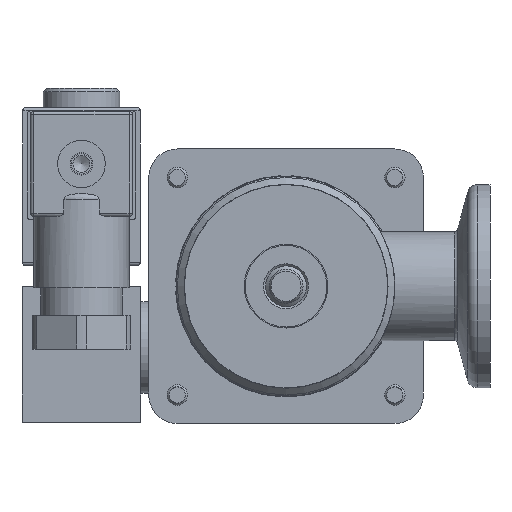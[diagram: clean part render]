
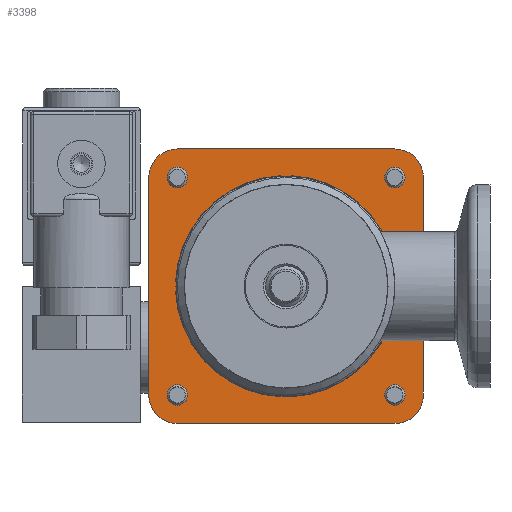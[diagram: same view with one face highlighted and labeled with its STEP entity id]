
A CAD part, front view. The second image highlights one B-rep face of the part: STEP entity #3398.
In plain terms, the highlighted planar face has unit normal (0, -1, 0) as drawn and (0, 1, 0) by its records, which use the part's own axes.
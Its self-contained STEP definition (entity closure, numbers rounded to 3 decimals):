
#2382=CIRCLE('',#12213,16.1);
#2384=CIRCLE('',#12218,16.1);
#2386=CIRCLE('',#12223,16.1);
#2388=CIRCLE('',#12228,16.1);
#2390=CIRCLE('',#12232,16.275);
#2392=CIRCLE('',#12234,16.275);
#2394=CIRCLE('',#12236,16.275);
#2396=CIRCLE('',#12238,16.275);
#2397=CIRCLE('',#12241,4.2);
#2398=CIRCLE('',#12244,4.2);
#2399=CIRCLE('',#12247,4.2);
#2400=CIRCLE('',#12250,4.2);
#2401=CIRCLE('',#12253,1.5);
#2402=CIRCLE('',#12254,1.5);
#2403=CIRCLE('',#12255,1.5);
#2404=CIRCLE('',#12256,1.5);
#2856=FACE_BOUND('',#4839,.T.);
#2857=FACE_BOUND('',#4840,.T.);
#2858=FACE_BOUND('',#4841,.T.);
#2859=FACE_BOUND('',#4842,.T.);
#2860=FACE_BOUND('',#4843,.T.);
#2861=FACE_BOUND('',#4844,.T.);
#3398=ADVANCED_FACE('',(#2856,#2857,#2858,#2859,#2860,#2861),#3913,.T.);
#3913=PLANE('',#12257);
#4839=EDGE_LOOP('',(#6293));
#4840=EDGE_LOOP('',(#6294));
#4841=EDGE_LOOP('',(#6295));
#4842=EDGE_LOOP('',(#6296));
#4843=EDGE_LOOP('',(#6297,#6298,#6299,#6300,#6301,#6302,#6303,#6304));
#4844=EDGE_LOOP('',(#6305,#6306,#6307,#6308,#6309,#6310,#6311,#6312,#6313,
#6314,#6315,#6316,#6317,#6318,#6319,#6320));
#6293=ORIENTED_EDGE('',*,*,#9436,.F.);
#6294=ORIENTED_EDGE('',*,*,#9437,.F.);
#6295=ORIENTED_EDGE('',*,*,#9438,.F.);
#6296=ORIENTED_EDGE('',*,*,#9439,.F.);
#6297=ORIENTED_EDGE('',*,*,#9419,.T.);
#6298=ORIENTED_EDGE('',*,*,#9422,.T.);
#6299=ORIENTED_EDGE('',*,*,#9424,.T.);
#6300=ORIENTED_EDGE('',*,*,#9426,.T.);
#6301=ORIENTED_EDGE('',*,*,#9428,.T.);
#6302=ORIENTED_EDGE('',*,*,#9430,.T.);
#6303=ORIENTED_EDGE('',*,*,#9432,.T.);
#6304=ORIENTED_EDGE('',*,*,#9433,.T.);
#6305=ORIENTED_EDGE('',*,*,#9375,.T.);
#6306=ORIENTED_EDGE('',*,*,#9378,.T.);
#6307=ORIENTED_EDGE('',*,*,#9417,.T.);
#6308=ORIENTED_EDGE('',*,*,#9382,.T.);
#6309=ORIENTED_EDGE('',*,*,#9385,.T.);
#6310=ORIENTED_EDGE('',*,*,#9388,.T.);
#6311=ORIENTED_EDGE('',*,*,#9415,.T.);
#6312=ORIENTED_EDGE('',*,*,#9392,.T.);
#6313=ORIENTED_EDGE('',*,*,#9395,.T.);
#6314=ORIENTED_EDGE('',*,*,#9398,.T.);
#6315=ORIENTED_EDGE('',*,*,#9413,.T.);
#6316=ORIENTED_EDGE('',*,*,#9402,.T.);
#6317=ORIENTED_EDGE('',*,*,#9405,.T.);
#6318=ORIENTED_EDGE('',*,*,#9408,.T.);
#6319=ORIENTED_EDGE('',*,*,#9411,.T.);
#6320=ORIENTED_EDGE('',*,*,#9435,.T.);
#8314=VERTEX_POINT('',#16907);
#8317=VERTEX_POINT('',#16912);
#8319=VERTEX_POINT('',#16918);
#8320=VERTEX_POINT('',#16922);
#8323=VERTEX_POINT('',#16927);
#8325=VERTEX_POINT('',#16933);
#8327=VERTEX_POINT('',#16939);
#8328=VERTEX_POINT('',#16943);
#8331=VERTEX_POINT('',#16948);
#8333=VERTEX_POINT('',#16954);
#8335=VERTEX_POINT('',#16960);
#8336=VERTEX_POINT('',#16964);
#8339=VERTEX_POINT('',#16969);
#8341=VERTEX_POINT('',#16975);
#8343=VERTEX_POINT('',#16981);
#8345=VERTEX_POINT('',#16987);
#8346=VERTEX_POINT('',#16997);
#8347=VERTEX_POINT('',#16999);
#8348=VERTEX_POINT('',#17003);
#8349=VERTEX_POINT('',#17007);
#8350=VERTEX_POINT('',#17011);
#8351=VERTEX_POINT('',#17015);
#8352=VERTEX_POINT('',#17019);
#8353=VERTEX_POINT('',#17023);
#8354=VERTEX_POINT('',#17032);
#8355=VERTEX_POINT('',#17034);
#8356=VERTEX_POINT('',#17036);
#8357=VERTEX_POINT('',#17038);
#9375=EDGE_CURVE('',#8314,#8317,#2382,.T.);
#9378=EDGE_CURVE('',#8317,#8319,#10541,.T.);
#9382=EDGE_CURVE('',#8320,#8323,#10545,.T.);
#9385=EDGE_CURVE('',#8323,#8325,#2384,.T.);
#9388=EDGE_CURVE('',#8325,#8327,#10549,.T.);
#9392=EDGE_CURVE('',#8328,#8331,#10553,.T.);
#9395=EDGE_CURVE('',#8331,#8333,#2386,.T.);
#9398=EDGE_CURVE('',#8333,#8335,#10557,.T.);
#9402=EDGE_CURVE('',#8336,#8339,#10561,.T.);
#9405=EDGE_CURVE('',#8339,#8341,#2388,.T.);
#9408=EDGE_CURVE('',#8341,#8343,#10565,.T.);
#9411=EDGE_CURVE('',#8343,#8345,#2390,.T.);
#9413=EDGE_CURVE('',#8335,#8336,#2392,.T.);
#9415=EDGE_CURVE('',#8327,#8328,#2394,.T.);
#9417=EDGE_CURVE('',#8319,#8320,#2396,.T.);
#9419=EDGE_CURVE('',#8347,#8346,#10568,.T.);
#9422=EDGE_CURVE('',#8346,#8348,#2397,.T.);
#9424=EDGE_CURVE('',#8348,#8349,#10572,.T.);
#9426=EDGE_CURVE('',#8349,#8350,#2398,.T.);
#9428=EDGE_CURVE('',#8350,#8351,#10575,.T.);
#9430=EDGE_CURVE('',#8351,#8352,#2399,.T.);
#9432=EDGE_CURVE('',#8352,#8353,#10578,.T.);
#9433=EDGE_CURVE('',#8353,#8347,#2400,.T.);
#9435=EDGE_CURVE('',#8345,#8314,#10580,.T.);
#9436=EDGE_CURVE('',#8354,#8354,#2401,.T.);
#9437=EDGE_CURVE('',#8355,#8355,#2402,.T.);
#9438=EDGE_CURVE('',#8356,#8356,#2403,.T.);
#9439=EDGE_CURVE('',#8357,#8357,#2404,.T.);
#10541=LINE('',#16919,#11343);
#10545=LINE('',#16928,#11347);
#10549=LINE('',#16940,#11351);
#10553=LINE('',#16949,#11355);
#10557=LINE('',#16961,#11359);
#10561=LINE('',#16970,#11363);
#10565=LINE('',#16982,#11367);
#10568=LINE('',#16998,#11370);
#10572=LINE('',#17008,#11374);
#10575=LINE('',#17016,#11377);
#10578=LINE('',#17024,#11380);
#10580=LINE('',#17029,#11382);
#11343=VECTOR('',#13846,1.);
#11347=VECTOR('',#13852,1.);
#11351=VECTOR('',#13864,1.);
#11355=VECTOR('',#13870,1.);
#11359=VECTOR('',#13882,1.);
#11363=VECTOR('',#13888,1.);
#11367=VECTOR('',#13900,1.);
#11370=VECTOR('',#13923,1.);
#11374=VECTOR('',#13933,1.);
#11377=VECTOR('',#13942,1.);
#11380=VECTOR('',#13951,1.);
#11382=VECTOR('',#13959,1.);
#12213=AXIS2_PLACEMENT_3D('',#16913,#13840,#13841);
#12218=AXIS2_PLACEMENT_3D('',#16934,#13858,#13859);
#12223=AXIS2_PLACEMENT_3D('',#16955,#13876,#13877);
#12228=AXIS2_PLACEMENT_3D('',#16976,#13894,#13895);
#12232=AXIS2_PLACEMENT_3D('',#16988,#13906,#13907);
#12234=AXIS2_PLACEMENT_3D('',#16990,#13910,#13911);
#12236=AXIS2_PLACEMENT_3D('',#16992,#13914,#13915);
#12238=AXIS2_PLACEMENT_3D('',#16994,#13918,#13919);
#12241=AXIS2_PLACEMENT_3D('',#17004,#13928,#13929);
#12244=AXIS2_PLACEMENT_3D('',#17012,#13937,#13938);
#12247=AXIS2_PLACEMENT_3D('',#17020,#13946,#13947);
#12250=AXIS2_PLACEMENT_3D('',#17026,#13954,#13955);
#12253=AXIS2_PLACEMENT_3D('',#17031,#13962,#13963);
#12254=AXIS2_PLACEMENT_3D('',#17033,#13964,#13965);
#12255=AXIS2_PLACEMENT_3D('',#17035,#13966,#13967);
#12256=AXIS2_PLACEMENT_3D('',#17037,#13968,#13969);
#12257=AXIS2_PLACEMENT_3D('',#17039,#13970,#13971);
#13840=DIRECTION('',(0.,-1.,0.));
#13841=DIRECTION('',(0.,0.,1.));
#13846=DIRECTION('',(0.,0.,1.));
#13852=DIRECTION('',(1.,0.,0.));
#13858=DIRECTION('',(0.,-1.,0.));
#13859=DIRECTION('',(0.,0.,1.));
#13864=DIRECTION('',(-1.,0.,0.));
#13870=DIRECTION('',(0.,0.,1.));
#13876=DIRECTION('',(0.,-1.,0.));
#13877=DIRECTION('',(0.,0.,1.));
#13882=DIRECTION('',(0.,0.,-1.));
#13888=DIRECTION('',(-1.,0.,0.));
#13894=DIRECTION('',(0.,-1.,0.));
#13895=DIRECTION('',(0.,0.,1.));
#13900=DIRECTION('',(1.,0.,0.));
#13906=DIRECTION('',(0.,-1.,0.));
#13907=DIRECTION('',(0.,0.,1.));
#13910=DIRECTION('',(0.,-1.,0.));
#13911=DIRECTION('',(0.,0.,1.));
#13914=DIRECTION('',(0.,-1.,0.));
#13915=DIRECTION('',(0.,0.,1.));
#13918=DIRECTION('',(0.,-1.,0.));
#13919=DIRECTION('',(0.,0.,1.));
#13923=DIRECTION('',(0.,0.,-1.));
#13928=DIRECTION('',(0.,1.,0.));
#13929=DIRECTION('',(1.,0.,0.));
#13933=DIRECTION('',(-1.,0.,0.));
#13937=DIRECTION('',(0.,1.,0.));
#13938=DIRECTION('',(0.,0.,-1.));
#13942=DIRECTION('',(0.,0.,1.));
#13946=DIRECTION('',(0.,1.,0.));
#13947=DIRECTION('',(-1.,0.,0.));
#13951=DIRECTION('',(1.,0.,0.));
#13954=DIRECTION('',(0.,1.,0.));
#13955=DIRECTION('',(0.,0.,1.));
#13959=DIRECTION('',(0.,0.,-1.));
#13962=DIRECTION('',(0.,1.,0.));
#13963=DIRECTION('',(-1.,0.,0.));
#13964=DIRECTION('',(0.,1.,0.));
#13965=DIRECTION('',(-1.,0.,0.));
#13966=DIRECTION('',(0.,1.,0.));
#13967=DIRECTION('',(-1.,0.,0.));
#13968=DIRECTION('',(0.,1.,0.));
#13969=DIRECTION('',(-1.,0.,0.));
#13970=DIRECTION('',(0.,1.,0.));
#13971=DIRECTION('',(0.,0.,1.));
#16907=CARTESIAN_POINT('',(0.75,6.,16.083));
#16912=CARTESIAN_POINT('',(-0.75,6.,16.083));
#16913=CARTESIAN_POINT('',(0.,6.,0.));
#16918=CARTESIAN_POINT('',(-0.75,6.,16.258));
#16919=CARTESIAN_POINT('',(-0.75,6.,16.083));
#16922=CARTESIAN_POINT('',(-16.258,6.,0.75));
#16927=CARTESIAN_POINT('',(-16.083,6.,0.75));
#16928=CARTESIAN_POINT('',(-16.258,6.,0.75));
#16933=CARTESIAN_POINT('',(-16.083,6.,-0.75));
#16934=CARTESIAN_POINT('',(0.,6.,0.));
#16939=CARTESIAN_POINT('',(-16.258,6.,-0.75));
#16940=CARTESIAN_POINT('',(-16.083,6.,-0.75));
#16943=CARTESIAN_POINT('',(-0.75,6.,-16.258));
#16948=CARTESIAN_POINT('',(-0.75,6.,-16.083));
#16949=CARTESIAN_POINT('',(-0.75,6.,-16.258));
#16954=CARTESIAN_POINT('',(0.75,6.,-16.083));
#16955=CARTESIAN_POINT('',(0.,6.,0.));
#16960=CARTESIAN_POINT('',(0.75,6.,-16.258));
#16961=CARTESIAN_POINT('',(0.75,6.,-16.083));
#16964=CARTESIAN_POINT('',(16.258,6.,-0.75));
#16969=CARTESIAN_POINT('',(16.083,6.,-0.75));
#16970=CARTESIAN_POINT('',(16.258,6.,-0.75));
#16975=CARTESIAN_POINT('',(16.083,6.,0.75));
#16976=CARTESIAN_POINT('',(0.,6.,0.));
#16981=CARTESIAN_POINT('',(16.258,6.,0.75));
#16982=CARTESIAN_POINT('',(16.083,6.,0.75));
#16987=CARTESIAN_POINT('',(0.75,6.,16.258));
#16988=CARTESIAN_POINT('',(0.,6.,0.));
#16990=CARTESIAN_POINT('',(0.,6.,0.));
#16992=CARTESIAN_POINT('',(0.,6.,0.));
#16994=CARTESIAN_POINT('',(0.,6.,0.));
#16997=CARTESIAN_POINT('',(20.2,6.,-16.));
#16998=CARTESIAN_POINT('',(20.2,6.,16.));
#16999=CARTESIAN_POINT('',(20.2,6.,16.));
#17003=CARTESIAN_POINT('',(16.,6.,-20.2));
#17004=CARTESIAN_POINT('',(16.,6.,-16.));
#17007=CARTESIAN_POINT('',(-16.,6.,-20.2));
#17008=CARTESIAN_POINT('',(16.,6.,-20.2));
#17011=CARTESIAN_POINT('',(-20.2,6.,-16.));
#17012=CARTESIAN_POINT('',(-16.,6.,-16.));
#17015=CARTESIAN_POINT('',(-20.2,6.,16.));
#17016=CARTESIAN_POINT('',(-20.2,6.,-16.));
#17019=CARTESIAN_POINT('',(-16.,6.,20.2));
#17020=CARTESIAN_POINT('',(-16.,6.,16.));
#17023=CARTESIAN_POINT('',(16.,6.,20.2));
#17024=CARTESIAN_POINT('',(-16.,6.,20.2));
#17026=CARTESIAN_POINT('',(16.,6.,16.));
#17029=CARTESIAN_POINT('',(0.75,6.,16.258));
#17031=CARTESIAN_POINT('',(-16.,6.,16.));
#17032=CARTESIAN_POINT('',(-17.5,6.,16.));
#17033=CARTESIAN_POINT('',(16.,6.,-16.));
#17034=CARTESIAN_POINT('',(14.5,6.,-16.));
#17035=CARTESIAN_POINT('',(-16.,6.,-16.));
#17036=CARTESIAN_POINT('',(-17.5,6.,-16.));
#17037=CARTESIAN_POINT('',(16.,6.,16.));
#17038=CARTESIAN_POINT('',(14.5,6.,16.));
#17039=CARTESIAN_POINT('',(16.,6.,-16.));
